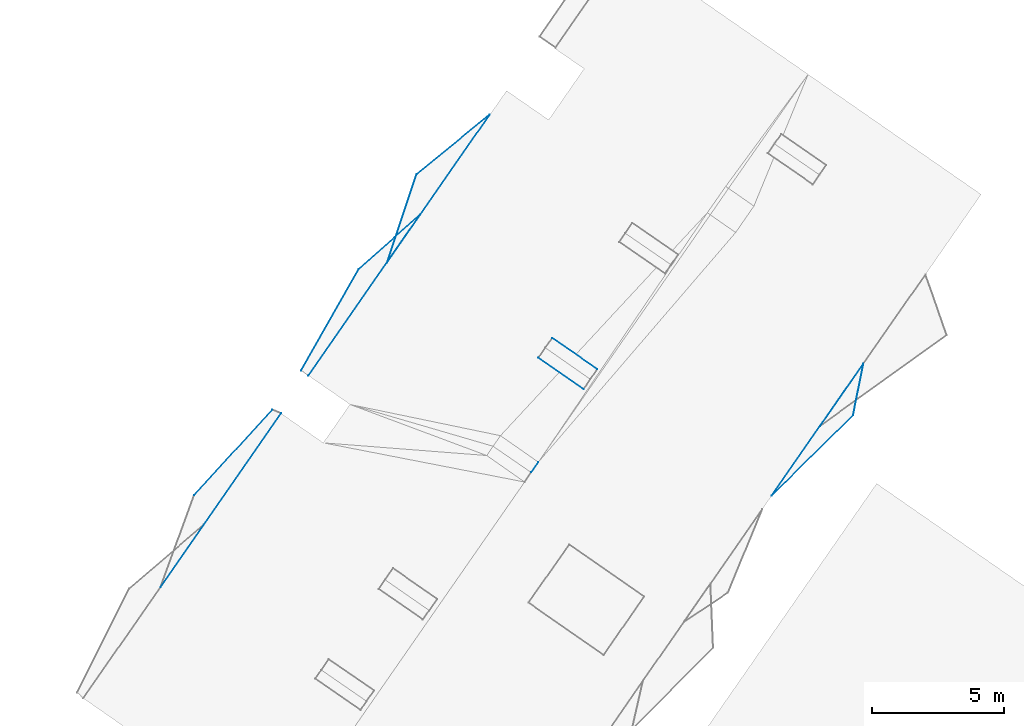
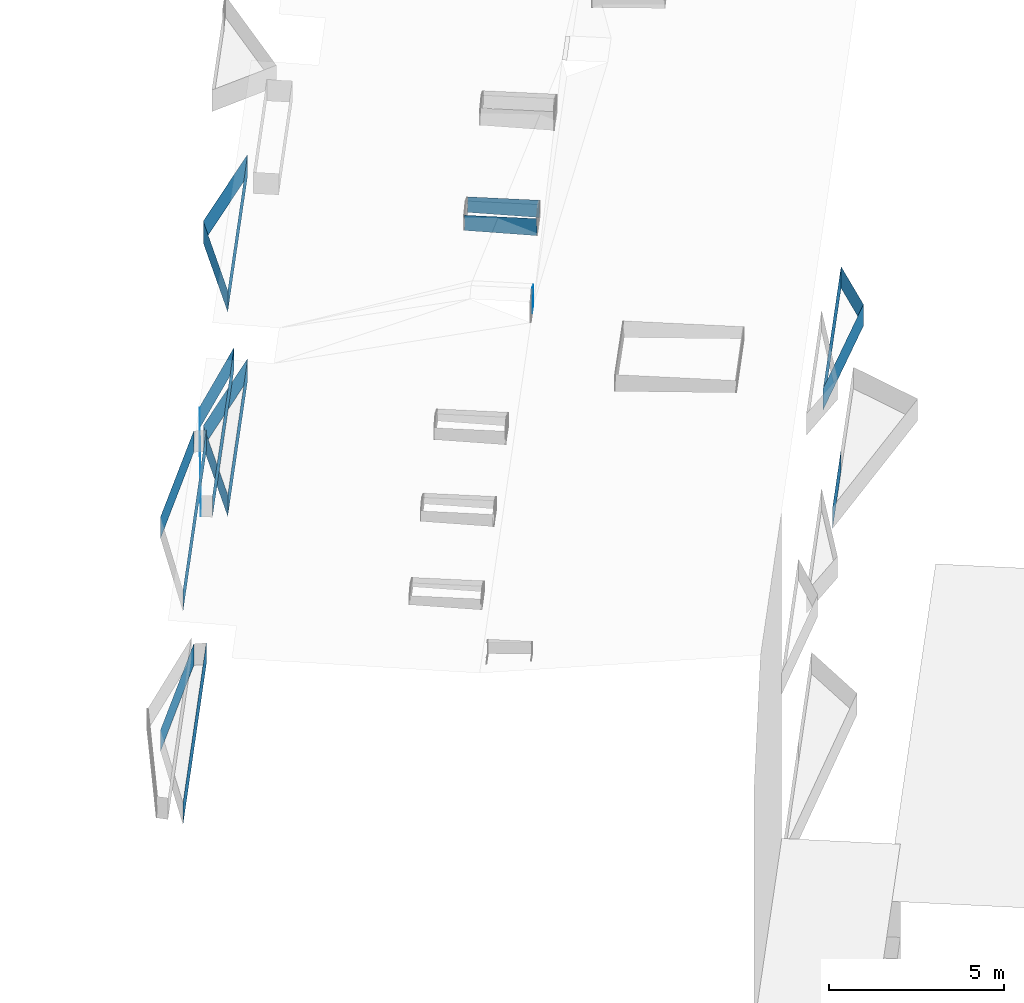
# Not in any storey, part 40 of 136: 37 walls.
"""IFC4 building model written with IfcOpenShell, lengths in metres."""

from ifc_helpers import new_model, entity, si_unit, converted_unit, frame, origin, place, context, subcontext, project, spatial, face_set, surface_model, element, save


model = new_model("IFC4")

# Units and contexts
model_context = context("Model", 3, precision=1e-05, world=origin())
body_context = subcontext(model_context, "Body", "Model", "MODEL_VIEW")
ifc_project = project(units=[converted_unit("PLANEANGLEUNIT", "DEGREE", entity("IfcRatioMeasure", 0.0174532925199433), si_unit("PLANEANGLEUNIT", "RADIAN"), dimensions=[0, 0, 0, 0, 0, 0, 0]), si_unit("AREAUNIT", "SQUARE_METRE"), si_unit("LENGTHUNIT", "METRE")], contexts=[model_context])

# Site, building
site_placement = place(None, origin())
site = spatial("IfcSite", under=ifc_project, at=site_placement, Name="_site")
building_placement = place(site_placement, origin())
building = spatial("IfcBuilding", under=site, at=building_placement, Name="_building")

# Walls
wall_1_placement = place(building_placement, origin())
element("IfcWall", 1, at=wall_1_placement, inside=building, Name="Wall", PredefinedType="NOTDEFINED", context=body_context, shape_type="SurfaceModel", body=[
    surface_model("IfcFaceBasedSurfaceModel", [(-31.43, 74.28, 47.47), (-27.96, 79.271, 47.47), (-27.96, 79.271, 48.22), (-31.43, 74.28, 48.22)], [face_set([[[0, 1, 2, 3]]])]),
])
wall_2_placement = place(building_placement, origin())
element("IfcWall", 2, at=wall_2_placement, inside=building, Name="Wall", PredefinedType="NOTDEFINED", context=body_context, shape_type="SurfaceModel", body=[
    surface_model("IfcFaceBasedSurfaceModel", [(-27.96, 79.271, 47.47), (-28.35, 77.32, 47.47), (-28.35, 77.32, 48.22), (-27.96, 79.271, 48.22)], [face_set([[[0, 1, 2, 3]]])]),
])
wall_3_placement = place(building_placement, origin())
element("IfcWall", 3, at=wall_3_placement, inside=building, Name="Wall", PredefinedType="NOTDEFINED", context=body_context, shape_type="SurfaceModel", body=[
    surface_model("IfcFaceBasedSurfaceModel", [(-31.43, 74.28, 47.47), (-27.96, 79.271, 47.47), (-27.96, 79.271, 48.22), (-31.43, 74.28, 48.22)], [face_set([[[0, 1, 2, 3]]])]),
])
wall_4_placement = place(building_placement, origin())
element("IfcWall", 4, at=wall_4_placement, inside=building, Name="Wall", PredefinedType="NOTDEFINED", context=body_context, shape_type="SurfaceModel", body=[
    surface_model("IfcFaceBasedSurfaceModel", [(-28.35, 77.32, 47.47), (-31.43, 74.28, 47.47), (-31.43, 74.28, 48.22), (-28.35, 77.32, 48.22)], [face_set([[[0, 1, 2, 3]]])]),
])
wall_5_placement = place(building_placement, origin())
element("IfcWall", 5, at=wall_5_placement, inside=building, Name="Wall", PredefinedType="NOTDEFINED", context=body_context, shape_type="SurfaceModel", body=[
    surface_model("IfcFaceBasedSurfaceModel", [(-27.96, 79.271, 47.47), (-28.35, 77.32, 47.47), (-28.35, 77.32, 48.22), (-27.96, 79.271, 48.22)], [face_set([[[0, 1, 2, 3]]])]),
])
for number, where, name in (
    (6, (0.0, 0.0, 0.0), "Wall"),
    (7, (0.0, 0.0, 0.0), "Wall"),
):
    element("IfcWall", number, at=place(building_placement, frame(where)), inside=building, Name=name, PredefinedType="NOTDEFINED", context=body_context, shape_type="SurfaceModel", body=[
        surface_model("IfcFaceBasedSurfaceModel", [(-29.6, 76.91, 41.1), (-27.96, 79.271, 41.1), (-27.96, 79.271, 41.85), (-29.6, 76.91, 41.85)], [face_set([[[0, 1, 2, 3]]])]),
    ])
for number, where, name in (
    (8, (0.0, 0.0, 0.0), "Wall"),
    (9, (0.0, 0.0, 0.0), "Wall"),
):
    element("IfcWall", number, at=place(building_placement, frame(where)), inside=building, Name=name, PredefinedType="NOTDEFINED", context=body_context, shape_type="SurfaceModel", body=[
        surface_model("IfcFaceBasedSurfaceModel", [(-53.26, 74.3, 50.62), (-50.3, 77.53, 50.62), (-50.3, 77.53, 51.37), (-53.26, 74.3, 51.37)], [face_set([[[0, 1, 2, 3]]])]),
    ])
wall_6_placement = place(building_placement, origin())
element("IfcWall", 10, at=wall_6_placement, inside=building, Name="Wall", PredefinedType="NOTDEFINED", context=body_context, shape_type="SurfaceModel", body=[
    surface_model("IfcFaceBasedSurfaceModel", [(-49.97, 77.39, 50.62), (-54.53, 70.82, 50.62), (-54.53, 70.82, 51.37), (-49.97, 77.39, 51.37)], [face_set([[[0, 1, 2, 3]]])]),
])
wall_7_placement = place(building_placement, origin())
element("IfcWall", 11, at=wall_7_placement, inside=building, Name="Wall", PredefinedType="NOTDEFINED", context=body_context, shape_type="SurfaceModel", body=[
    surface_model("IfcFaceBasedSurfaceModel", [(-38.54, 78.3, 54.18), (-40.25, 79.49, 54.18), (-40.25, 79.49, 53.648), (-38.54, 78.3, 53.587)], [face_set([[[0, 1, 2, 3]]])]),
])
wall_8_placement = place(building_placement, origin())
element("IfcWall", 12, at=wall_8_placement, inside=building, Name="Wall", PredefinedType="NOTDEFINED", context=body_context, shape_type="SurfaceModel", body=[
    surface_model("IfcFaceBasedSurfaceModel", [(-49.97, 77.39, 50.62), (-54.53, 70.82, 50.62), (-54.53, 70.82, 51.37), (-49.97, 77.39, 51.37)], [face_set([[[0, 1, 2, 3]]])]),
])
for number, where, name in (
    (13, (0.0, 0.0, 0.0), "Wall"),
    (14, (0.0, 0.0, 0.0), "Wall"),
):
    element("IfcWall", number, at=place(building_placement, frame(where)), inside=building, Name=name, PredefinedType="NOTDEFINED", context=body_context, shape_type="SurfaceModel", body=[
        surface_model("IfcFaceBasedSurfaceModel", [(-44.71, 84.91, 47.1), (-48.94, 78.82, 47.1), (-48.94, 78.82, 47.85), (-44.71, 84.91, 47.85)], [face_set([[[0, 1, 2, 3]]])]),
    ])
wall_9_placement = place(building_placement, origin())
element("IfcWall", 15, at=wall_9_placement, inside=building, Name="Wall", PredefinedType="NOTDEFINED", context=body_context, shape_type="SurfaceModel", body=[
    surface_model("IfcFaceBasedSurfaceModel", [(-39.72, 80.24, 54.18), (-38.02, 79.061, 54.18), (-38.02, 79.061, 53.577), (-39.72, 80.24, 53.637)], [face_set([[[0, 1, 2, 3]]])]),
])
wall_10_placement = place(building_placement, origin())
element("IfcWall", 16, at=wall_10_placement, inside=building, Name="Wall", PredefinedType="NOTDEFINED", context=body_context, shape_type="SurfaceModel", body=[
    surface_model("IfcFaceBasedSurfaceModel", [(-44.85, 86.43, 43.5), (-42.08, 88.69, 43.5), (-42.08, 88.69, 44.25), (-44.85, 86.43, 44.25)], [face_set([[[0, 1, 2, 3]]])]),
])
wall_11_placement = place(building_placement, origin())
element("IfcWall", 17, at=wall_11_placement, inside=building, Name="Wall", PredefinedType="NOTDEFINED", context=body_context, shape_type="SurfaceModel", body=[
    surface_model("IfcFaceBasedSurfaceModel", [(-45.97, 83.09, 43.5), (-44.85, 86.43, 43.5), (-44.85, 86.43, 44.25), (-45.97, 83.09, 44.25)], [face_set([[[0, 1, 2, 3]]])]),
])
wall_12_placement = place(building_placement, origin())
element("IfcWall", 18, at=wall_12_placement, inside=building, Name="Wall", PredefinedType="NOTDEFINED", context=body_context, shape_type="SurfaceModel", body=[
    surface_model("IfcFaceBasedSurfaceModel", [(-40.248, 75.549, 54.18), (-40.519, 75.159, 54.35), (-40.519, 75.159, 53.46), (-40.248, 75.549, 53.46)], [face_set([[[0, 1, 2, 3]]])]),
])
wall_13_placement = place(building_placement, origin())
element("IfcWall", 19, at=wall_13_placement, inside=building, Name="Wall", PredefinedType="NOTDEFINED", context=body_context, shape_type="SurfaceModel", body=[
    surface_model("IfcFaceBasedSurfaceModel", [(-44.85, 86.43, 43.5), (-42.08, 88.69, 43.5), (-42.08, 88.69, 44.25), (-44.85, 86.43, 44.25)], [face_set([[[0, 1, 2, 3]]])]),
])
wall_14_placement = place(building_placement, origin())
element("IfcWall", 20, at=wall_14_placement, inside=building, Name="Wall", PredefinedType="NOTDEFINED", context=body_context, shape_type="SurfaceModel", body=[
    surface_model("IfcFaceBasedSurfaceModel", [(-45.97, 83.09, 43.5), (-44.85, 86.43, 43.5), (-44.85, 86.43, 44.25), (-45.97, 83.09, 44.25)], [face_set([[[0, 1, 2, 3]]])]),
])
for number, where, name in (
    (21, (0.0, 0.0, 0.0), "Wall"),
    (22, (0.0, 0.0, 0.0), "Wall"),
):
    element("IfcWall", number, at=place(building_placement, frame(where)), inside=building, Name=name, PredefinedType="NOTDEFINED", context=body_context, shape_type="SurfaceModel", body=[
        surface_model("IfcFaceBasedSurfaceModel", [(-42.08, 88.69, 43.5), (-45.97, 83.09, 43.5), (-45.97, 83.09, 44.25), (-42.08, 88.69, 44.25)], [face_set([[[0, 1, 2, 3]]])]),
    ])
wall_15_placement = place(building_placement, origin())
element("IfcWall", 23, at=wall_15_placement, inside=building, Name="Wall", PredefinedType="NOTDEFINED", context=body_context, shape_type="SurfaceModel", body=[
    surface_model("IfcFaceBasedSurfaceModel", [(-45.97, 83.09, 50.62), (-44.85, 86.43, 50.62), (-44.85, 86.43, 51.37), (-45.97, 83.09, 51.37)], [face_set([[[0, 1, 2, 3]]])]),
])
wall_16_placement = place(building_placement, origin())
element("IfcWall", 24, at=wall_16_placement, inside=building, Name="Wall", PredefinedType="NOTDEFINED", context=body_context, shape_type="SurfaceModel", body=[
    surface_model("IfcFaceBasedSurfaceModel", [(-42.08, 88.69, 50.62), (-45.97, 83.09, 50.62), (-45.97, 83.09, 51.37), (-42.08, 88.69, 51.37)], [face_set([[[0, 1, 2, 3]]])]),
])
wall_17_placement = place(building_placement, origin())
element("IfcWall", 25, at=wall_17_placement, inside=building, Name="Wall", PredefinedType="NOTDEFINED", context=body_context, shape_type="SurfaceModel", body=[
    surface_model("IfcFaceBasedSurfaceModel", [(-44.85, 86.43, 50.62), (-42.08, 88.69, 50.62), (-42.08, 88.69, 51.37), (-44.85, 86.43, 51.37)], [face_set([[[0, 1, 2, 3]]])]),
])
wall_18_placement = place(building_placement, origin())
element("IfcWall", 26, at=wall_18_placement, inside=building, Name="Wall", PredefinedType="NOTDEFINED", context=body_context, shape_type="SurfaceModel", body=[
    surface_model("IfcFaceBasedSurfaceModel", [(-42.08, 88.69, 50.62), (-45.97, 83.09, 50.62), (-45.97, 83.09, 51.37), (-42.08, 88.69, 51.37)], [face_set([[[0, 1, 2, 3]]])]),
])
wall_19_placement = place(building_placement, origin())
element("IfcWall", 27, at=wall_19_placement, inside=building, Name="Wall", PredefinedType="NOTDEFINED", context=body_context, shape_type="SurfaceModel", body=[
    surface_model("IfcFaceBasedSurfaceModel", [(-53.26, 74.3, 43.2), (-50.3, 77.53, 43.2), (-50.3, 77.53, 43.95), (-53.26, 74.3, 43.95)], [face_set([[[0, 1, 2, 3]]])]),
])
wall_20_placement = place(building_placement, origin())
element("IfcWall", 28, at=wall_20_placement, inside=building, Name="Wall", PredefinedType="NOTDEFINED", context=body_context, shape_type="SurfaceModel", body=[
    surface_model("IfcFaceBasedSurfaceModel", [(-49.97, 77.39, 43.2), (-54.53, 70.82, 43.2), (-54.53, 70.82, 43.95), (-49.97, 77.39, 43.95)], [face_set([[[0, 1, 2, 3]]])]),
])
wall_21_placement = place(building_placement, origin())
element("IfcWall", 29, at=wall_21_placement, inside=building, Name="Wall", PredefinedType="NOTDEFINED", context=body_context, shape_type="SurfaceModel", body=[
    surface_model("IfcFaceBasedSurfaceModel", [(-53.26, 74.3, 43.2), (-50.3, 77.53, 43.2), (-50.3, 77.53, 43.95), (-53.26, 74.3, 43.95)], [face_set([[[0, 1, 2, 3]]])]),
])
wall_22_placement = place(building_placement, origin())
element("IfcWall", 30, at=wall_22_placement, inside=building, Name="Wall", PredefinedType="NOTDEFINED", context=body_context, shape_type="SurfaceModel", body=[
    surface_model("IfcFaceBasedSurfaceModel", [(-49.97, 77.39, 43.2), (-54.53, 70.82, 43.2), (-54.53, 70.82, 43.95), (-49.97, 77.39, 43.95)], [face_set([[[0, 1, 2, 3]]])]),
])
wall_23_placement = place(building_placement, origin())
element("IfcWall", 31, at=wall_23_placement, inside=building, Name="Wall", PredefinedType="NOTDEFINED", context=body_context, shape_type="SurfaceModel", body=[
    surface_model("IfcFaceBasedSurfaceModel", [(-44.85, 86.43, 50.62), (-42.08, 88.69, 50.62), (-42.08, 88.69, 51.37), (-44.85, 86.43, 51.37)], [face_set([[[0, 1, 2, 3]]])]),
])
wall_24_placement = place(building_placement, origin())
element("IfcWall", 32, at=wall_24_placement, inside=building, Name="Wall", PredefinedType="NOTDEFINED", context=body_context, shape_type="SurfaceModel", body=[
    surface_model("IfcFaceBasedSurfaceModel", [(-47.04, 82.84, 47.1), (-44.71, 84.91, 47.1), (-44.71, 84.91, 47.85), (-47.04, 82.84, 47.85)], [face_set([[[0, 1, 2, 3]]])]),
])
wall_25_placement = place(building_placement, origin())
element("IfcWall", 33, at=wall_25_placement, inside=building, Name="Wall", PredefinedType="NOTDEFINED", context=body_context, shape_type="SurfaceModel", body=[
    surface_model("IfcFaceBasedSurfaceModel", [(-49.22, 79.01, 47.1), (-47.04, 82.84, 47.1), (-47.04, 82.84, 47.85), (-49.22, 79.01, 47.85)], [face_set([[[0, 1, 2, 3]]])]),
])
wall_26_placement = place(building_placement, origin())
element("IfcWall", 34, at=wall_26_placement, inside=building, Name="Wall", PredefinedType="NOTDEFINED", context=body_context, shape_type="SurfaceModel", body=[
    surface_model("IfcFaceBasedSurfaceModel", [(-47.04, 82.84, 47.1), (-44.71, 84.91, 47.1), (-44.71, 84.91, 47.85), (-47.04, 82.84, 47.85)], [face_set([[[0, 1, 2, 3]]])]),
])
wall_27_placement = place(building_placement, origin())
element("IfcWall", 35, at=wall_27_placement, inside=building, Name="Wall", PredefinedType="NOTDEFINED", context=body_context, shape_type="SurfaceModel", body=[
    surface_model("IfcFaceBasedSurfaceModel", [(-49.22, 79.01, 47.1), (-47.04, 82.84, 47.1), (-47.04, 82.84, 47.85), (-49.22, 79.01, 47.85)], [face_set([[[0, 1, 2, 3]]])]),
])
wall_28_placement = place(building_placement, origin())
element("IfcWall", 36, at=wall_28_placement, inside=building, Name="Wall", PredefinedType="NOTDEFINED", context=body_context, shape_type="SurfaceModel", body=[
    surface_model("IfcFaceBasedSurfaceModel", [(-45.97, 83.09, 50.62), (-44.85, 86.43, 50.62), (-44.85, 86.43, 51.37), (-45.97, 83.09, 51.37)], [face_set([[[0, 1, 2, 3]]])]),
])
wall_29_placement = place(building_placement, origin())
element("IfcWall", 37, at=wall_29_placement, inside=building, Name="Wall", PredefinedType="NOTDEFINED", context=body_context, shape_type="SurfaceModel", body=[
    surface_model("IfcFaceBasedSurfaceModel", [(-28.35, 77.32, 47.47), (-31.43, 74.28, 47.47), (-31.43, 74.28, 48.22), (-28.35, 77.32, 48.22)], [face_set([[[0, 1, 2, 3]]])]),
])

save(model, "model.ifc")
